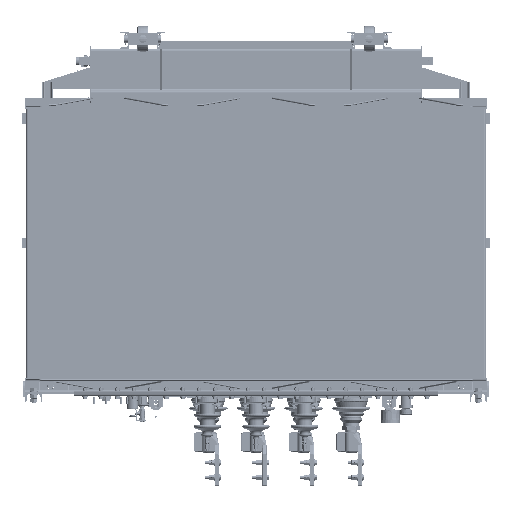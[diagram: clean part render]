
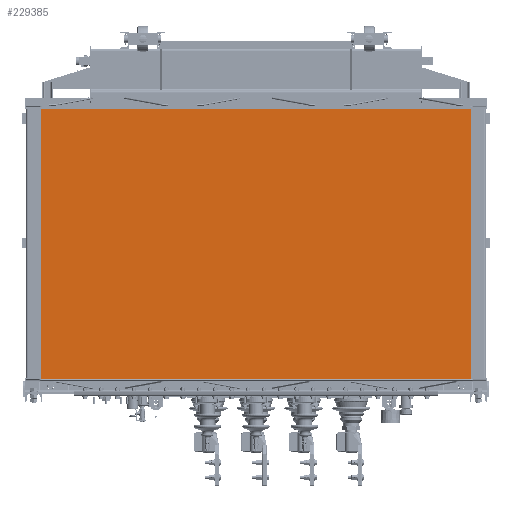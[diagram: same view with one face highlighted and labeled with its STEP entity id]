
A CAD part, front view. The second image highlights one B-rep face of the part: STEP entity #229385.
In plain terms, the highlighted planar face has unit normal (0, 1, 0).
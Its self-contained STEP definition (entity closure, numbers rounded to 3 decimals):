
#38047=FACE_OUTER_BOUND('',#52925,.T.);
#52925=EDGE_LOOP('',(#196260,#196261,#196262,#196263));
#68072=LINE('',#431238,#83224);
#68074=LINE('',#431242,#83226);
#68075=LINE('',#431244,#83227);
#68076=LINE('',#431245,#83228);
#83224=VECTOR('',#305492,10.);
#83226=VECTOR('',#305496,10.);
#83227=VECTOR('',#305497,10.);
#83228=VECTOR('',#305498,10.);
#103185=VERTEX_POINT('',#431235);
#103186=VERTEX_POINT('',#431237);
#103187=VERTEX_POINT('',#431241);
#103188=VERTEX_POINT('',#431243);
#134219=EDGE_CURVE('',#103186,#103185,#68072,.T.);
#134221=EDGE_CURVE('',#103185,#103187,#68074,.T.);
#134222=EDGE_CURVE('',#103188,#103187,#68075,.T.);
#134223=EDGE_CURVE('',#103186,#103188,#68076,.T.);
#196260=ORIENTED_EDGE('',*,*,#134221,.T.);
#196261=ORIENTED_EDGE('',*,*,#134222,.F.);
#196262=ORIENTED_EDGE('',*,*,#134223,.F.);
#196263=ORIENTED_EDGE('',*,*,#134219,.T.);
#202700=PLANE('',#250171);
#229385=ADVANCED_FACE('',(#38047),#202700,.F.);
#250171=AXIS2_PLACEMENT_3D('',#431240,#305494,#305495);
#305492=DIRECTION('',(0.,0.,-1.));
#305494=DIRECTION('center_axis',(0.,-1.,0.));
#305495=DIRECTION('ref_axis',(-1.,0.,0.));
#305496=DIRECTION('',(-1.,0.,0.));
#305497=DIRECTION('',(0.,0.,-1.));
#305498=DIRECTION('',(-1.,0.,0.));
#431235=CARTESIAN_POINT('',(1016.9,-637.,60.111));
#431237=CARTESIAN_POINT('',(1016.9,-637.,1342.611));
#431238=CARTESIAN_POINT('',(1016.9,-637.,1342.611));
#431240=CARTESIAN_POINT('Origin',(1016.9,-637.,1342.611));
#431241=CARTESIAN_POINT('',(-1017.1,-637.,60.111));
#431242=CARTESIAN_POINT('',(508.4,-637.,60.111));
#431243=CARTESIAN_POINT('',(-1017.1,-637.,1342.611));
#431244=CARTESIAN_POINT('',(-1017.1,-637.,1342.611));
#431245=CARTESIAN_POINT('',(1016.9,-637.,1342.611));
